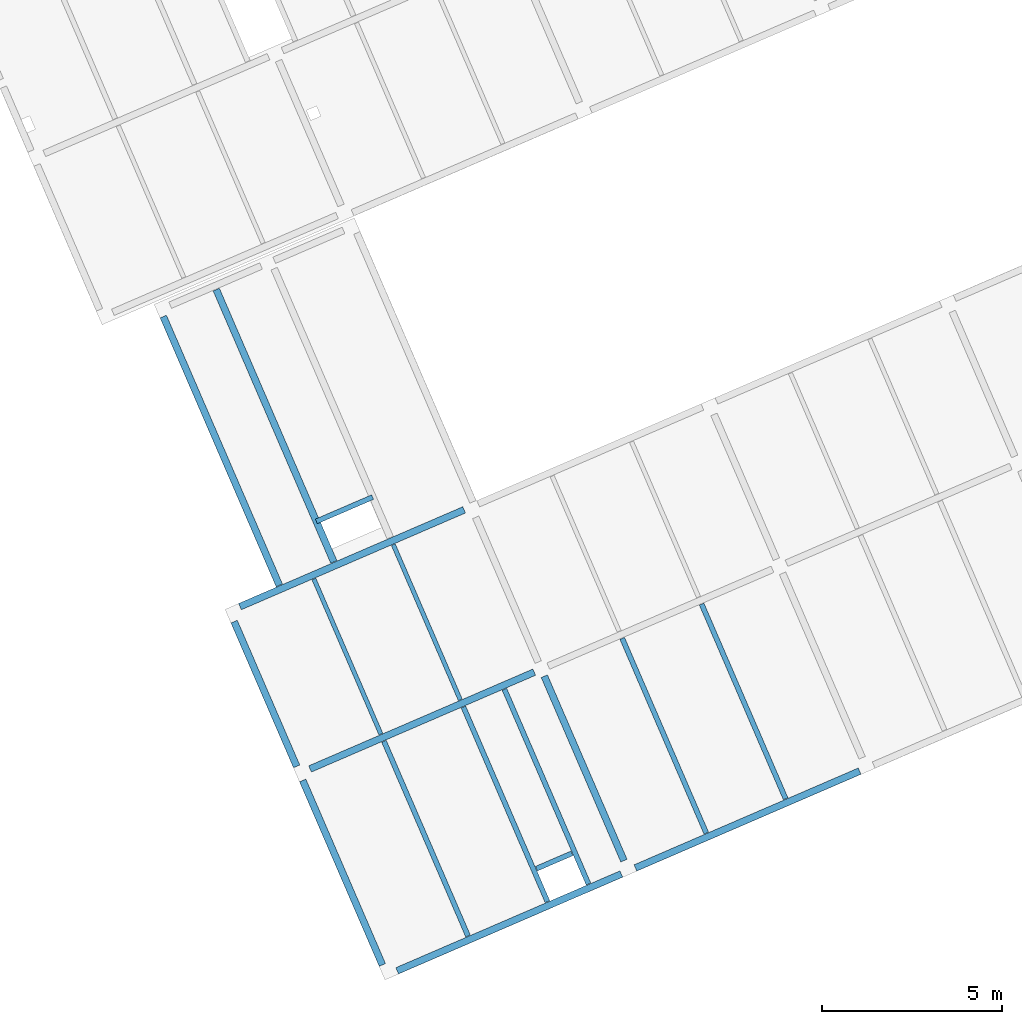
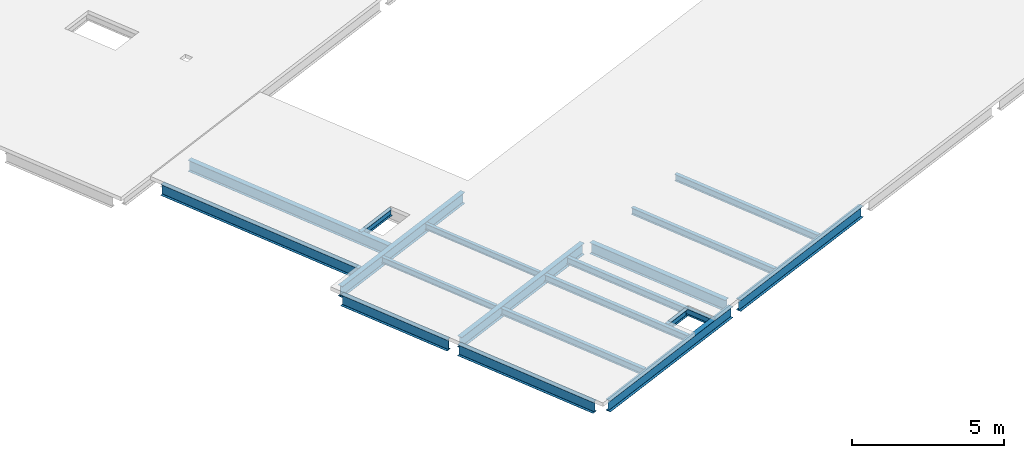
# One storey, part 1 of 15: 18 beams.
"""IFC4 building model written with IfcOpenShell, lengths in metres."""

from ifc_helpers import new_model, entity, si_unit, converted_unit, derived_unit, direction, frame, origin, place, context, subcontext, project, spatial, line, arc, indexed_curve, outline, extrude, source, transform, mapped, material, type_object, type_shapes, element, save


model = new_model("IFC4")

# Units and contexts
model_context = context("Model", 3, precision=1e-05, world=origin(), true_north=direction((6.12323399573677e-17, 1.0)))
body_context = subcontext(model_context, "Body", "Model", "MODEL_VIEW")
ifc_project = project(units=[si_unit("LENGTHUNIT", "METRE"), si_unit("AREAUNIT", "SQUARE_METRE"), si_unit("VOLUMEUNIT", "CUBIC_METRE"), converted_unit("PLANEANGLEUNIT", "DEGREE", entity("IfcPlaneAngleMeasure", 0.0174532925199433), si_unit("PLANEANGLEUNIT", "RADIAN"), dimensions=[0, 0, 0, 0, 0, 0, 0]), si_unit("MASSUNIT", "GRAM", prefix="KILO"), derived_unit("MOMENTOFINERTIAUNIT", [(si_unit("LENGTHUNIT", "METRE"), 4)]), derived_unit("LINEARFORCEUNIT", [(si_unit("MASSUNIT", "GRAM", prefix="KILO"), 1), (si_unit("TIMEUNIT", "SECOND"), -2)]), derived_unit("WARPINGCONSTANTUNIT", [(si_unit("LENGTHUNIT", "METRE"), 6)]), derived_unit("THERMALTRANSMITTANCEUNIT", [(si_unit("MASSUNIT", "GRAM", prefix="KILO"), 1), (si_unit("THERMODYNAMICTEMPERATUREUNIT", "KELVIN"), -1), (si_unit("TIMEUNIT", "SECOND"), -3)]), derived_unit("USERDEFINED", [(si_unit("MASSUNIT", "GRAM", prefix="KILO"), 1), (si_unit("TIMEUNIT", "SECOND"), -2), (si_unit("THERMODYNAMICTEMPERATUREUNIT", "KELVIN"), -1)]), derived_unit("THERMALRESISTANCEUNIT", [(si_unit("MASSUNIT", "GRAM", prefix="KILO"), -1), (si_unit("TIMEUNIT", "SECOND"), 3), (si_unit("THERMODYNAMICTEMPERATUREUNIT", "KELVIN"), 1)])], contexts=[model_context])

# Site, building, storey
site_placement = place(None, origin())
site = spatial("IfcSite", under=ifc_project, at=site_placement, Name="Default", CompositionType="ELEMENT")
building_placement = place(site_placement, frame((12.6613425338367, -82.5732315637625, 317.15), z_axis=(0.0, 0.0, 1.0), x_axis=(-0.396377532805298, 0.918087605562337, 0.0)))
building = spatial("IfcBuilding", under=site, at=building_placement, Name="CESFAM Coyhaique", CompositionType="ELEMENT")
storey_placement = place(building_placement, frame((0.0, 0.0, 8.45000000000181)))
storey = spatial("IfcBuildingStorey", under=building, at=storey_placement, Name="Nivel 3", CompositionType="ELEMENT", Elevation=8.45000000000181)

# Beams
ifc_material = material(Name="Steel, 45-345", Category="Metal")
beam_type_1 = type_object("IfcBeamType", Name="M_W Shapes:W450X190mm", PredefinedType="BEAM", material=ifc_material)
shared_shape_1 = source(origin(), body_context, "Body", "SweptSolid", [
    extrude(outline(indexed_curve([(-0.224999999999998, -0.0950000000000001), (-0.215349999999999, -0.0950000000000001), (-0.215349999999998, -0.0105699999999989), (-0.213109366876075, -0.00516063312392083), (-0.207699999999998, -0.00291999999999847), (0.207700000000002, -0.00291999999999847), (0.213109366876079, -0.00516063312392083), (0.215350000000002, -0.0105699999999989), (0.215350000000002, -0.0950000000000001), (0.225000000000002, -0.0950000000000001), (0.225000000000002, 0.0950000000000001), (0.215350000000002, 0.0950000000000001), (0.215350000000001, 0.0105700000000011), (0.213109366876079, 0.00516063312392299), (0.207700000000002, 0.00292000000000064), (-0.207699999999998, 0.00292000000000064), (-0.213109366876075, 0.00516063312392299), (-0.215349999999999, 0.0105700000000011), (-0.215349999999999, 0.0950000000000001), (-0.224999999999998, 0.0950000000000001)], segments=[line(1, 2, 3), arc(3, 4, 5), line(5, 6), arc(6, 7, 8), line(8, 9, 10, 11, 12, 13), arc(13, 14, 15), line(15, 16), arc(16, 17, 18), line(18, 19, 20, 1)], self_intersect=False)), frame((4.38155341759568, 10.0028504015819, 8.07500000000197), z_axis=(1.0, 0.0, 0.0), x_axis=(0.0, 0.0, -1.0)), (0.0, 0.0, 1.0), 5.5746),
])
type_shapes(beam_type_1, [shared_shape_1])
beam_1_placement = place(storey_placement, frame((0.0, 0.0, -8.45000000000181)))
element("IfcBeam", 1, at=beam_1_placement, inside=storey, type_object=beam_type_1, Name="M_W Shapes:W450X190mm", ObjectType="M_W Shapes:W450X190mm", PredefinedType="BEAM", context=body_context, shape_type="MappedRepresentation", body=[
    mapped(shared_shape_1, transform((0.0, 0.0, 0.0), scale=1.0)),
])
beam_type_2 = type_object("IfcBeamType", Name="M_W Shapes:W450X190mm", PredefinedType="BEAM", material=ifc_material)
shared_shape_2 = source(origin(), body_context, "Body", "SweptSolid", [
    extrude(outline(indexed_curve([(-0.0950000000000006, -0.225000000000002), (0.0950000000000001, -0.225000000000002), (0.0950000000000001, -0.215350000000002), (0.01057, -0.215350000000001), (0.00516063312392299, -0.213109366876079), (0.00291999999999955, -0.207700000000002), (0.00291999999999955, 0.207699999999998), (0.00516063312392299, 0.213109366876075), (0.01057, 0.215349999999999), (0.094999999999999, 0.215349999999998), (0.0949999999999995, 0.224999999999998), (-0.0950000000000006, 0.224999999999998), (-0.0950000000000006, 0.215349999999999), (-0.0105700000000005, 0.215349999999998), (-0.00516063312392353, 0.213109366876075), (-0.00292000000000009, 0.207699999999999), (-0.00292000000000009, -0.207700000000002), (-0.00516063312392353, -0.213109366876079), (-0.0105700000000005, -0.215350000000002), (-0.0950000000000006, -0.215350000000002)], segments=[line(1, 2, 3, 4), arc(4, 5, 6), line(6, 7), arc(7, 8, 9), line(9, 10, 11, 12, 13, 14), arc(14, 15, 16), line(16, 17), arc(17, 18, 19), line(19, 20, 1)], self_intersect=False)), frame((4.06885341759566, 3.0155504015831, 8.07500000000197), z_axis=(0.0, 1.0, 0.0), x_axis=(-1.0, 0.0, 0.0)), (0.0, 0.0, 1.0), 6.7746),
])
type_shapes(beam_type_2, [shared_shape_2])
beam_2_placement = place(storey_placement, frame((0.0, 0.0, -8.45000000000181)))
element("IfcBeam", 2, at=beam_2_placement, inside=storey, type_object=beam_type_2, Name="M_W Shapes:W450X190mm", ObjectType="M_W Shapes:W450X190mm", PredefinedType="BEAM", context=body_context, shape_type="MappedRepresentation", body=[
    mapped(shared_shape_2, transform((0.0, 0.0, 0.0), scale=1.0)),
])
beam_type_3 = type_object("IfcBeamType", Name="M_W Shapes:W450X190mm", PredefinedType="BEAM", material=ifc_material)
shared_shape_3 = source(origin(), body_context, "Body", "SweptSolid", [
    extrude(outline(indexed_curve([(-0.224999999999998, -0.0950000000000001), (-0.215349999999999, -0.0950000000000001), (-0.215349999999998, -0.0105699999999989), (-0.213109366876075, -0.00516063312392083), (-0.207699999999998, -0.00291999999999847), (0.207700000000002, -0.00291999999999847), (0.213109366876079, -0.00516063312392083), (0.215350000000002, -0.0105699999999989), (0.215350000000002, -0.0950000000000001), (0.225000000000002, -0.0950000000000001), (0.225000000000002, 0.0950000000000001), (0.215350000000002, 0.0950000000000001), (0.215350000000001, 0.0105700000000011), (0.213109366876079, 0.00516063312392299), (0.207700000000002, 0.00292000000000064), (-0.207699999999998, 0.00292000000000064), (-0.213109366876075, 0.00516063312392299), (-0.215349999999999, 0.0105700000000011), (-0.215349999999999, 0.0950000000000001), (-0.224999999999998, 0.0950000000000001)], segments=[line(1, 2, 3), arc(3, 4, 5), line(5, 6), arc(6, 7, 8), line(8, 9, 10, 11, 12, 13), arc(13, 14, 15), line(15, 16), arc(16, 17, 18), line(18, 19, 20, 1)], self_intersect=False)), frame((4.3815534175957, 17.3028504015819, 8.07500000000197), z_axis=(1.0, 0.0, 0.0), x_axis=(0.0, 0.0, -1.0)), (0.0, 0.0, 1.0), 5.5746),
])
type_shapes(beam_type_3, [shared_shape_3])
beam_3_placement = place(storey_placement, frame((0.0, 0.0, -8.45000000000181)))
element("IfcBeam", 3, at=beam_3_placement, inside=storey, type_object=beam_type_3, Name="M_W Shapes:W450X190mm", ObjectType="M_W Shapes:W450X190mm", PredefinedType="BEAM", context=body_context, shape_type="MappedRepresentation", body=[
    mapped(shared_shape_3, transform((0.0, 0.0, 0.0), scale=1.0)),
])
beam_type_4 = type_object("IfcBeamType", Name="M_W Shapes:W450X190mm", PredefinedType="BEAM", material=ifc_material)
shared_shape_4 = source(origin(), body_context, "Body", "SweptSolid", [
    extrude(outline(indexed_curve([(-0.224999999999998, -0.0950000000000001), (-0.215349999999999, -0.0949999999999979), (-0.215349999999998, -0.0105699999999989), (-0.213109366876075, -0.00516063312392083), (-0.207699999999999, -0.00291999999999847), (0.207700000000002, -0.00291999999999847), (0.213109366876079, -0.00516063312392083), (0.215350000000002, -0.0105699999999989), (0.215350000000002, -0.0950000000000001), (0.225000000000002, -0.0950000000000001), (0.225000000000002, 0.0950000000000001), (0.215350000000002, 0.0950000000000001), (0.215350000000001, 0.0105700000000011), (0.213109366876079, 0.00516063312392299), (0.207700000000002, 0.00292000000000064), (-0.207699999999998, 0.00292000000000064), (-0.213109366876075, 0.00516063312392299), (-0.215349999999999, 0.0105700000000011), (-0.215349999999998, 0.0950000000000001), (-0.224999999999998, 0.0950000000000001)], segments=[line(1, 2, 3), arc(3, 4, 5), line(5, 6), arc(6, 7, 8), line(8, 9, 10, 11, 12, 13), arc(13, 14, 15), line(15, 16), arc(16, 17, 18), line(18, 19, 20, 1)], self_intersect=False)), frame((10.3815534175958, 17.3028504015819, 8.07500000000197), z_axis=(1.0, 0.0, 0.0), x_axis=(0.0, 0.0, -1.0)), (0.0, 0.0, 1.0), 4.3746),
])
type_shapes(beam_type_4, [shared_shape_4])
beam_4_placement = place(storey_placement, frame((0.0, 0.0, -8.45000000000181)))
element("IfcBeam", 4, at=beam_4_placement, inside=storey, type_object=beam_type_4, Name="M_W Shapes:W450X190mm", ObjectType="M_W Shapes:W450X190mm", PredefinedType="BEAM", context=body_context, shape_type="MappedRepresentation", body=[
    mapped(shared_shape_4, transform((0.0, 0.0, 0.0), scale=1.0)),
])
beam_type_5 = type_object("IfcBeamType", Name="M_W Shapes:W450X190mm", PredefinedType="BEAM", material=ifc_material)
shared_shape_5 = source(origin(), body_context, "Body", "SweptSolid", [
    extrude(outline(indexed_curve([(-0.224999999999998, -0.0950000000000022), (-0.215349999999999, -0.0950000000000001), (-0.215349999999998, -0.0105700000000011), (-0.213109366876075, -0.00516063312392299), (-0.207699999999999, -0.00292000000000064), (0.207700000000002, -0.00292000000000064), (0.213109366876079, -0.00516063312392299), (0.215350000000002, -0.0105700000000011), (0.215350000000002, -0.0950000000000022), (0.225000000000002, -0.0950000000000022), (0.225000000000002, 0.0949999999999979), (0.215350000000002, 0.0949999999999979), (0.215350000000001, 0.0105699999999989), (0.213109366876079, 0.00516063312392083), (0.207700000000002, 0.00291999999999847), (-0.207699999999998, 0.00291999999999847), (-0.213109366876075, 0.00516063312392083), (-0.215349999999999, 0.0105699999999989), (-0.215349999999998, 0.0949999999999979), (-0.224999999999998, 0.0949999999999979)], segments=[line(1, 2, 3), arc(3, 4, 5), line(5, 6), arc(6, 7, 8), line(8, 9, 10, 11, 12, 13), arc(13, 14, 15), line(15, 16), arc(16, 17, 18), line(18, 19, 20, 1)], self_intersect=False)), frame((15.1815534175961, 15.7528504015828, 8.07500000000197), z_axis=(1.0, 0.0, 0.0), x_axis=(0.0, 0.0, -1.0)), (0.0, 0.0, 1.0), 8.1246),
])
type_shapes(beam_type_5, [shared_shape_5])
beam_5_placement = place(storey_placement, frame((0.0, 0.0, -8.45000000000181)))
element("IfcBeam", 5, at=beam_5_placement, inside=storey, type_object=beam_type_5, Name="M_W Shapes:W450X190mm", ObjectType="M_W Shapes:W450X190mm", PredefinedType="BEAM", context=body_context, shape_type="MappedRepresentation", body=[
    mapped(shared_shape_5, transform((0.0, 0.0, 0.0), scale=1.0)),
])
beam_type_6 = type_object("IfcBeamType", Name="M_W Shapes:W450X190mm", PredefinedType="BEAM", material=ifc_material)
shared_shape_6 = source(origin(), body_context, "Body", "SweptSolid", [
    extrude(outline(indexed_curve([(-0.0950000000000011, -0.225000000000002), (0.0949999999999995, -0.225000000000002), (0.0949999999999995, -0.215350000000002), (0.0105699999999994, -0.215350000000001), (0.00516063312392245, -0.213109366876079), (0.00291999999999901, -0.207700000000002), (0.00291999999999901, 0.207699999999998), (0.00516063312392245, 0.213109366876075), (0.0105699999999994, 0.215349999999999), (0.0949999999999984, 0.215349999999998), (0.094999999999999, 0.224999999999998), (-0.0950000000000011, 0.224999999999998), (-0.0950000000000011, 0.215349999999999), (-0.0105700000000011, 0.215349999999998), (-0.00516063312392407, 0.213109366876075), (-0.00292000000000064, 0.207699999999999), (-0.00292000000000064, -0.207700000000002), (-0.00516063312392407, -0.213109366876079), (-0.0105700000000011, -0.215350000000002), (-0.0950000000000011, -0.215350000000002)], segments=[line(1, 2, 3, 4), arc(4, 5, 6), line(6, 7), arc(7, 8, 9), line(9, 10, 11, 12, 13, 14), arc(14, 15, 16), line(16, 17), arc(17, 18, 19), line(19, 20, 1)], self_intersect=False)), frame((4.06885341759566, 10.2155504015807, 8.07500000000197), z_axis=(0.0, 1.0, 0.0), x_axis=(-1.0, 0.0, 0.0)), (0.0, 0.0, 1.0), 6.7746),
])
type_shapes(beam_type_6, [shared_shape_6])
beam_6_placement = place(storey_placement, frame((0.0, 0.0, -8.45000000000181)))
element("IfcBeam", 6, at=beam_6_placement, inside=storey, type_object=beam_type_6, Name="M_W Shapes:W450X190mm", ObjectType="M_W Shapes:W450X190mm", PredefinedType="BEAM", context=body_context, shape_type="MappedRepresentation", body=[
    mapped(shared_shape_6, transform((0.0, 0.0, 0.0), scale=1.0)),
])
beam_type_7 = type_object("IfcBeamType", Name="M_W Shapes:W450X190mm", PredefinedType="BEAM", material=ifc_material)
shared_shape_7 = source(origin(), body_context, "Body", "SweptSolid", [
    extrude(outline(indexed_curve([(-0.0950000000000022, -0.225000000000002), (0.0949999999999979, -0.225000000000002), (0.0949999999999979, -0.215350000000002), (0.0105699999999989, -0.215350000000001), (0.00516063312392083, -0.213109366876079), (0.00291999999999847, -0.207700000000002), (0.00291999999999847, 0.207699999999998), (0.00516063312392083, 0.213109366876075), (0.0105699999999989, 0.215349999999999), (0.0949999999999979, 0.215349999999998), (0.0949999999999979, 0.224999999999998), (-0.0950000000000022, 0.224999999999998), (-0.0950000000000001, 0.215349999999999), (-0.0105700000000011, 0.215349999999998), (-0.00516063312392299, 0.213109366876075), (-0.00292000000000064, 0.207699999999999), (-0.00292000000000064, -0.207700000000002), (-0.00516063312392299, -0.213109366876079), (-0.0105700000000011, -0.215350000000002), (-0.0950000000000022, -0.215350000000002)], segments=[line(1, 2, 3, 4), arc(4, 5, 6), line(6, 7), arc(7, 8, 9), line(9, 10, 11, 12, 13, 14), arc(14, 15, 16), line(16, 17), arc(17, 18, 19), line(19, 20, 1)], self_intersect=False)), frame((10.1688534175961, 10.2155504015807, 8.07500000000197), z_axis=(0.0, 1.0, 0.0), x_axis=(-1.0, 0.0, 0.0)), (0.0, 0.0, 1.0), 6.7746),
])
type_shapes(beam_type_7, [shared_shape_7])
beam_7_placement = place(storey_placement, frame((0.0, 0.0, -8.45000000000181)))
element("IfcBeam", 7, at=beam_7_placement, inside=storey, type_object=beam_type_7, Name="M_W Shapes:W450X190mm", ObjectType="M_W Shapes:W450X190mm", PredefinedType="BEAM", context=body_context, shape_type="MappedRepresentation", body=[
    mapped(shared_shape_7, transform((0.0, 0.0, 0.0), scale=1.0)),
])
beam_type_8 = type_object("IfcBeamType", Name="M_W Shapes:W450X190mm", PredefinedType="BEAM", material=ifc_material)
shared_shape_8 = source(origin(), body_context, "Body", "SweptSolid", [
    extrude(outline(indexed_curve([(-0.0950000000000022, -0.225000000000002), (0.0949999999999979, -0.225000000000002), (0.0949999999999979, -0.215350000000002), (0.0105699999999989, -0.215350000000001), (0.00516063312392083, -0.213109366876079), (0.00291999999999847, -0.207700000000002), (0.00291999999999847, 0.207699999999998), (0.00516063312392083, 0.213109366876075), (0.0105699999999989, 0.215349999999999), (0.0949999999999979, 0.215349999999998), (0.0949999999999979, 0.224999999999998), (-0.0950000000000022, 0.224999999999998), (-0.0950000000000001, 0.215349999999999), (-0.0105700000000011, 0.215349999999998), (-0.00516063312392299, 0.213109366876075), (-0.00292000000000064, 0.207699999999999), (-0.00292000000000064, -0.207700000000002), (-0.00516063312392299, -0.213109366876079), (-0.0105700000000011, -0.215350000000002), (-0.0950000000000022, -0.215350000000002)], segments=[line(1, 2, 3, 4), arc(4, 5, 6), line(6, 7), arc(7, 8, 9), line(9, 10, 11, 12, 13, 14), arc(14, 15, 16), line(16, 17), arc(17, 18, 19), line(19, 20, 1)], self_intersect=False)), frame((15.0738534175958, 10.2155504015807, 8.07500000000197), z_axis=(0.0, 1.0, 0.0), x_axis=(-1.0, 0.0, 0.0)), (0.0, 0.0, 1.0), 6.7746),
])
type_shapes(beam_type_8, [shared_shape_8])
beam_8_placement = place(storey_placement, frame((0.0, 0.0, -8.45000000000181)))
element("IfcBeam", 8, at=beam_8_placement, inside=storey, type_object=beam_type_8, Name="M_W Shapes:W450X190mm", ObjectType="M_W Shapes:W450X190mm", PredefinedType="BEAM", context=body_context, shape_type="MappedRepresentation", body=[
    mapped(shared_shape_8, transform((0.0, 0.0, 0.0), scale=1.0)),
])
beam_type_9 = type_object("IfcBeamType", Name="M_W Shapes:W270X140mm", PredefinedType="BEAM", material=ifc_material)
shared_shape_9 = source(origin(), body_context, "Body", "SweptSolid", [
    extrude(outline(indexed_curve([(-0.135, -0.0700000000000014), (-0.125350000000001, -0.0700000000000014), (-0.12535, -0.0105700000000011), (-0.123109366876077, -0.00516063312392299), (-0.1177, -0.00292000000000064), (0.117699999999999, -0.00292000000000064), (0.123109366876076, -0.00516063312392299), (0.12535, -0.0105700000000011), (0.12535, -0.0700000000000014), (0.135, -0.0700000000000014), (0.135, 0.0699999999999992), (0.12535, 0.0699999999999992), (0.125349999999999, 0.0105699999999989), (0.123109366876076, 0.00516063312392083), (0.117699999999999, 0.00291999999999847), (-0.1177, 0.00291999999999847), (-0.123109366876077, 0.00516063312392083), (-0.125350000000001, 0.0105699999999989), (-0.125350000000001, 0.0699999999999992), (-0.135, 0.0699999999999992)], segments=[line(1, 2, 3), arc(3, 4, 5), line(5, 6), arc(6, 7, 8), line(8, 9, 10, 11, 12, 13), arc(13, 14, 15), line(15, 16), arc(16, 17, 18), line(18, 19, 20, 1)], self_intersect=False)), frame((4.17655341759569, 11.1628504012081, 8.16500000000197), z_axis=(1.0, 0.0, 0.0), x_axis=(0.0, 0.0, -1.0)), (0.0, 0.0, 1.0), 5.8846),
])
type_shapes(beam_type_9, [shared_shape_9])
beam_9_placement = place(storey_placement, frame((0.0, 0.0, -8.45000000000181)))
element("IfcBeam", 9, at=beam_9_placement, inside=storey, type_object=beam_type_9, Name="M_W Shapes:W270X140mm", ObjectType="M_W Shapes:W270X140mm", PredefinedType="BEAM", context=body_context, shape_type="MappedRepresentation", body=[
    mapped(shared_shape_9, transform((0.0, 0.0, 0.0), scale=1.0)),
])
beam_type_10 = type_object("IfcBeamType", Name="M_W Shapes:W270X140mm", PredefinedType="BEAM", material=ifc_material)
shared_shape_10 = source(origin(), body_context, "Body", "SweptSolid", [
    extrude(outline(indexed_curve([(-0.135, -0.0699999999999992), (-0.125350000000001, -0.0699999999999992), (-0.12535, -0.0105699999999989), (-0.123109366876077, -0.00516063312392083), (-0.1177, -0.00291999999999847), (0.117699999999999, -0.00291999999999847), (0.123109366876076, -0.00516063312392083), (0.12535, -0.0105699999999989), (0.12535, -0.0699999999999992), (0.135, -0.0699999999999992), (0.135, 0.0700000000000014), (0.12535, 0.0700000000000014), (0.125349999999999, 0.0105700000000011), (0.123109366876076, 0.00516063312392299), (0.117699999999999, 0.00292000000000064), (-0.1177, 0.00292000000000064), (-0.123109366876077, 0.00516063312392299), (-0.125350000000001, 0.0105700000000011), (-0.125350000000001, 0.0700000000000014), (-0.135, 0.0700000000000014)], segments=[line(1, 2, 3), arc(3, 4, 5), line(5, 6), arc(6, 7, 8), line(8, 9, 10, 11, 12, 13), arc(13, 14, 15), line(15, 16), arc(16, 17, 18), line(18, 19, 20, 1)], self_intersect=False)), frame((4.17655341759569, 12.402850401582, 8.16500000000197), z_axis=(1.0, 0.0, 0.0), x_axis=(0.0, 0.0, -1.0)), (0.0, 0.0, 1.0), 5.8846),
])
type_shapes(beam_type_10, [shared_shape_10])
beam_10_placement = place(storey_placement, frame((0.0, 0.0, -8.45000000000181)))
element("IfcBeam", 10, at=beam_10_placement, inside=storey, type_object=beam_type_10, Name="M_W Shapes:W270X140mm", ObjectType="M_W Shapes:W270X140mm", PredefinedType="BEAM", context=body_context, shape_type="MappedRepresentation", body=[
    mapped(shared_shape_10, transform((0.0, 0.0, 0.0), scale=1.0)),
])
beam_type_11 = type_object("IfcBeamType", Name="M_W Shapes:W270X140mm", PredefinedType="BEAM", material=ifc_material)
shared_shape_11 = source(origin(), body_context, "Body", "SweptSolid", [
    extrude(outline(indexed_curve([(-0.0700000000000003, -0.135), (0.0700000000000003, -0.135), (0.0700000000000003, -0.12535), (0.01057, -0.12535), (0.00516063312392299, -0.123109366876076), (0.00291999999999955, -0.117699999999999), (0.00291999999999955, 0.1177), (0.00516063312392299, 0.123109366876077), (0.01057, 0.125350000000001), (0.0699999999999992, 0.125350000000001), (0.0699999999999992, 0.135), (-0.0700000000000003, 0.135), (-0.0700000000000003, 0.125350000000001), (-0.01057, 0.125350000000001), (-0.00516063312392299, 0.123109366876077), (-0.00292000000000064, 0.1177), (-0.00291999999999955, -0.117699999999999), (-0.00516063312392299, -0.123109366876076), (-0.01057, -0.12535), (-0.0700000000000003, -0.12535)], segments=[line(1, 2, 3, 4), arc(4, 5, 6), line(6, 7), arc(7, 8, 9), line(9, 10, 11, 12, 13, 14), arc(14, 15, 16), line(16, 17), arc(17, 18, 19), line(19, 20, 1)], self_intersect=False)), frame((5.1388534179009, 11.245550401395, 8.16500000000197), z_axis=(0.0, 1.0, 0.0), x_axis=(-1.0, 0.0, 0.0)), (0.0, 0.0, 1.0), 1.0746),
])
type_shapes(beam_type_11, [shared_shape_11])
beam_11_placement = place(storey_placement, frame((0.0, 0.0, -8.45000000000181)))
element("IfcBeam", 11, at=beam_11_placement, inside=storey, type_object=beam_type_11, Name="M_W Shapes:W270X140mm", ObjectType="M_W Shapes:W270X140mm", PredefinedType="BEAM", context=body_context, shape_type="MappedRepresentation", body=[
    mapped(shared_shape_11, transform((0.0, 0.0, 0.0), scale=1.0)),
])
beam_type_12 = type_object("IfcBeamType", Name="M_W Shapes:W270X140mm", PredefinedType="BEAM", material=ifc_material)
shared_shape_12 = source(origin(), body_context, "Body", "SweptSolid", [
    extrude(outline(indexed_curve([(-0.135, -0.0699999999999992), (-0.125350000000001, -0.0699999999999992), (-0.12535, -0.0105699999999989), (-0.123109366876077, -0.00516063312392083), (-0.1177, -0.00291999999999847), (0.117699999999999, -0.00291999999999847), (0.123109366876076, -0.00516063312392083), (0.12535, -0.0105699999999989), (0.12535, -0.0699999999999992), (0.135, -0.0699999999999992), (0.135, 0.0700000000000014), (0.12535, 0.0700000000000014), (0.125349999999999, 0.0105700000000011), (0.123109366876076, 0.00516063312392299), (0.117699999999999, 0.00292000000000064), (-0.1177, 0.00292000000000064), (-0.123109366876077, 0.00516063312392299), (-0.125350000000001, 0.0105700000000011), (-0.125350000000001, 0.0700000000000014), (-0.135, 0.0700000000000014)], segments=[line(1, 2, 3), arc(3, 4, 5), line(5, 6), arc(6, 7, 8), line(8, 9, 10, 11, 12, 13), arc(13, 14, 15), line(15, 16), arc(16, 17, 18), line(18, 19, 20, 1)], self_intersect=False)), frame((4.1765534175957, 14.802850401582, 8.16500000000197), z_axis=(1.0, 0.0, 0.0), x_axis=(0.0, 0.0, -1.0)), (0.0, 0.0, 1.0), 5.8846),
])
type_shapes(beam_type_12, [shared_shape_12])
beam_12_placement = place(storey_placement, frame((0.0, 0.0, -8.45000000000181)))
element("IfcBeam", 12, at=beam_12_placement, inside=storey, type_object=beam_type_12, Name="M_W Shapes:W270X140mm", ObjectType="M_W Shapes:W270X140mm", PredefinedType="BEAM", context=body_context, shape_type="MappedRepresentation", body=[
    mapped(shared_shape_12, transform((0.0, 0.0, 0.0), scale=1.0)),
])
beam_type_13 = type_object("IfcBeamType", Name="M_W Shapes:W240X120mm", PredefinedType="BEAM", material=ifc_material)
shared_shape_13 = source(origin(), body_context, "Body", "SweptSolid", [
    extrude(outline(indexed_curve([(-0.119999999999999, -0.059999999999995), (-0.11035, -0.059999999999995), (-0.110349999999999, -0.0105699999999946), (-0.108109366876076, -0.00516063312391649), (-0.102699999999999, -0.00291999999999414), (0.1027, -0.00291999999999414), (0.108109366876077, -0.00516063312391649), (0.11035, -0.0105699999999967), (0.110350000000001, -0.059999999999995), (0.120000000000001, -0.059999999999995), (0.120000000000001, 0.0600000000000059), (0.11035, 0.0600000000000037), (0.11035, 0.0105700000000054), (0.108109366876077, 0.00516063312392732), (0.102699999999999, 0.00292000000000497), (-0.102699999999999, 0.00292000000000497), (-0.108109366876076, 0.00516063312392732), (-0.11035, 0.0105700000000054), (-0.110349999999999, 0.0600000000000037), (-0.119999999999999, 0.0600000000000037)], segments=[line(1, 2, 3), arc(3, 4, 5), line(5, 6), arc(6, 7, 8), line(8, 9, 10, 11, 12, 13), arc(13, 14, 15), line(15, 16), arc(16, 17, 18), line(18, 19, 20, 1)], self_intersect=False)), frame((10.276553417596, 14.802850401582, 8.18000000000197), z_axis=(1.0, 0.0, 0.0), x_axis=(0.0, 0.0, -1.0)), (0.0, 0.0, 1.0), 4.6896),
])
type_shapes(beam_type_13, [shared_shape_13])
beam_13_placement = place(storey_placement, frame((0.0, 0.0, -8.45000000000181)))
element("IfcBeam", 13, at=beam_13_placement, inside=storey, type_object=beam_type_13, Name="M_W Shapes:W240X120mm", ObjectType="M_W Shapes:W240X120mm", PredefinedType="BEAM", context=body_context, shape_type="MappedRepresentation", body=[
    mapped(shared_shape_13, transform((0.0, 0.0, 0.0), scale=1.0)),
])
beam_type_14 = type_object("IfcBeamType", Name="M_W Shapes:W240X120mm", PredefinedType="BEAM", material=ifc_material)
shared_shape_14 = source(origin(), body_context, "Body", "SweptSolid", [
    extrude(outline(indexed_curve([(-0.119999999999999, -0.0599999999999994), (-0.11035, -0.0599999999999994), (-0.110349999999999, -0.0105699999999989), (-0.108109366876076, -0.00516063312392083), (-0.102699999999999, -0.00291999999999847), (0.1027, -0.00291999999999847), (0.108109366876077, -0.00516063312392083), (0.11035, -0.0105700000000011), (0.110350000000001, -0.0599999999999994), (0.120000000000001, -0.0599999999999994), (0.120000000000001, 0.0600000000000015), (0.11035, 0.0599999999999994), (0.11035, 0.0105700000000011), (0.108109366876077, 0.00516063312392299), (0.102699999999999, 0.00292000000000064), (-0.102699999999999, 0.00292000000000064), (-0.108109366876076, 0.00516063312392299), (-0.11035, 0.0105700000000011), (-0.110349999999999, 0.0599999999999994), (-0.119999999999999, 0.0599999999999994)], segments=[line(1, 2, 3), arc(3, 4, 5), line(5, 6), arc(6, 7, 8), line(8, 9, 10, 11, 12, 13), arc(13, 14, 15), line(15, 16), arc(16, 17, 18), line(18, 19, 20, 1)], self_intersect=False)), frame((10.276553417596, 12.402850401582, 8.18000000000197), z_axis=(1.0, 0.0, 0.0), x_axis=(0.0, 0.0, -1.0)), (0.0, 0.0, 1.0), 4.6896),
])
type_shapes(beam_type_14, [shared_shape_14])
beam_14_placement = place(storey_placement, frame((0.0, 0.0, -8.45000000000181)))
element("IfcBeam", 14, at=beam_14_placement, inside=storey, type_object=beam_type_14, Name="M_W Shapes:W240X120mm", ObjectType="M_W Shapes:W240X120mm", PredefinedType="BEAM", context=body_context, shape_type="MappedRepresentation", body=[
    mapped(shared_shape_14, transform((0.0, 0.0, 0.0), scale=1.0)),
])
beam_type_15 = type_object("IfcBeamType", Name="M_W Shapes:W270X140mm", PredefinedType="BEAM", material=ifc_material)
shared_shape_15 = source(origin(), body_context, "Body", "SweptSolid", [
    extrude(outline(indexed_curve([(-0.135, -0.0700000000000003), (-0.125350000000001, -0.0700000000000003), (-0.125350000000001, -0.01057), (-0.123109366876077, -0.00516063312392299), (-0.1177, -0.00292000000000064), (0.117699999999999, -0.00291999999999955), (0.123109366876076, -0.00516063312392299), (0.12535, -0.01057), (0.12535, -0.0700000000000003), (0.135, -0.0700000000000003), (0.135, 0.0700000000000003), (0.12535, 0.0700000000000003), (0.12535, 0.01057), (0.123109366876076, 0.00516063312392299), (0.117699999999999, 0.00291999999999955), (-0.1177, 0.00291999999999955), (-0.123109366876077, 0.00516063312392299), (-0.125350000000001, 0.01057), (-0.125350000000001, 0.0699999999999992), (-0.135, 0.0699999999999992)], segments=[line(1, 2, 3), arc(3, 4, 5), line(5, 6), arc(6, 7, 8), line(8, 9, 10, 11, 12, 13), arc(13, 14, 15), line(15, 16), arc(16, 17, 18), line(18, 19, 20, 1)], self_intersect=False)), frame((4.17655341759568, 7.60285040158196, 8.16500000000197), z_axis=(1.0, 0.0, 0.0), x_axis=(0.0, 0.0, -1.0)), (0.0, 0.0, 1.0), 5.8846),
])
type_shapes(beam_type_15, [shared_shape_15])
beam_15_placement = place(storey_placement, frame((0.0, 0.0, -8.45000000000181)))
element("IfcBeam", 15, at=beam_15_placement, inside=storey, type_object=beam_type_15, Name="M_W Shapes:W270X140mm", ObjectType="M_W Shapes:W270X140mm", PredefinedType="BEAM", context=body_context, shape_type="MappedRepresentation", body=[
    mapped(shared_shape_15, transform((0.0, 0.0, 0.0), scale=1.0)),
])
beam_type_16 = type_object("IfcBeamType", Name="M_W Shapes:W270X140mm", PredefinedType="BEAM", material=ifc_material)
shared_shape_16 = source(origin(), body_context, "Body", "SweptSolid", [
    extrude(outline(indexed_curve([(-0.135, -0.0700000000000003), (-0.125350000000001, -0.0700000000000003), (-0.125350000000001, -0.01057), (-0.123109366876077, -0.00516063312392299), (-0.1177, -0.00292000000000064), (0.117699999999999, -0.00291999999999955), (0.123109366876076, -0.00516063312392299), (0.12535, -0.01057), (0.12535, -0.0700000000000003), (0.135, -0.0700000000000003), (0.135, 0.0700000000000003), (0.12535, 0.0700000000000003), (0.12535, 0.01057), (0.123109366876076, 0.00516063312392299), (0.117699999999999, 0.00291999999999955), (-0.1177, 0.00291999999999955), (-0.123109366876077, 0.00516063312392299), (-0.125350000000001, 0.01057), (-0.125350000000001, 0.0699999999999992), (-0.135, 0.0699999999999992)], segments=[line(1, 2, 3), arc(3, 4, 5), line(5, 6), arc(6, 7, 8), line(8, 9, 10, 11, 12, 13), arc(13, 14, 15), line(15, 16), arc(16, 17, 18), line(18, 19, 20, 1)], self_intersect=False)), frame((4.17655341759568, 5.20285040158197, 8.16500000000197), z_axis=(1.0, 0.0, 0.0), x_axis=(0.0, 0.0, -1.0)), (0.0, 0.0, 1.0), 5.8846),
])
type_shapes(beam_type_16, [shared_shape_16])
beam_16_placement = place(storey_placement, frame((0.0, 0.0, -8.45000000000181)))
element("IfcBeam", 16, at=beam_16_placement, inside=storey, type_object=beam_type_16, Name="M_W Shapes:W270X140mm", ObjectType="M_W Shapes:W270X140mm", PredefinedType="BEAM", context=body_context, shape_type="MappedRepresentation", body=[
    mapped(shared_shape_16, transform((0.0, 0.0, 0.0), scale=1.0)),
])
beam_type_17 = type_object("IfcBeamType", Name="M_W Shapes:W450X190mm", PredefinedType="BEAM", material=ifc_material)
shared_shape_17 = source(origin(), body_context, "Body", "SweptSolid", [
    extrude(outline(indexed_curve([(-0.224999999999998, -0.0950000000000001), (-0.215349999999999, -0.0949999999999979), (-0.215349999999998, -0.0105699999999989), (-0.213109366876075, -0.00516063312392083), (-0.207699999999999, -0.00291999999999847), (0.207700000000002, -0.00291999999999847), (0.213109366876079, -0.00516063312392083), (0.215350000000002, -0.0105699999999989), (0.215350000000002, -0.0950000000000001), (0.225000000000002, -0.0950000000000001), (0.225000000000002, 0.0950000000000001), (0.215350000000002, 0.0950000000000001), (0.215350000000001, 0.0105700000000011), (0.213109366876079, 0.00516063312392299), (0.207700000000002, 0.00292000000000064), (-0.207699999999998, 0.00292000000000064), (-0.213109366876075, 0.00516063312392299), (-0.215349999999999, 0.0105700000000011), (-0.215349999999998, 0.0950000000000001), (-0.224999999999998, 0.0950000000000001)], segments=[line(1, 2, 3), arc(3, 4, 5), line(5, 6), arc(6, 7, 8), line(8, 9, 10, 11, 12, 13), arc(13, 14, 15), line(15, 16), arc(16, 17, 18), line(18, 19, 20, 1)], self_intersect=False)), frame((15.1815534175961, 14.1073856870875, 8.07500000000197), z_axis=(1.0, 0.0, 0.0), x_axis=(0.0, 0.0, -1.0)), (0.0, 0.0, 1.0), 8.2296),
])
type_shapes(beam_type_17, [shared_shape_17])
beam_17_placement = place(storey_placement, frame((0.0, 0.0, -8.45000000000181)))
element("IfcBeam", 17, at=beam_17_placement, inside=storey, type_object=beam_type_17, Name="M_W Shapes:W450X190mm", ObjectType="M_W Shapes:W450X190mm", PredefinedType="BEAM", context=body_context, shape_type="MappedRepresentation", body=[
    mapped(shared_shape_17, transform((0.0, 0.0, 0.0), scale=1.0)),
])
beam_type_18 = type_object("IfcBeamType", Name="M_W Shapes:W270X140mm", PredefinedType="BEAM", material=ifc_material)
shared_shape_18 = source(origin(), body_context, "Body", "SweptSolid", [
    extrude(outline(indexed_curve([(-0.0699999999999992, -0.135000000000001), (0.0700000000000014, -0.135000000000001), (0.0700000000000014, -0.125350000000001), (0.0105700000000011, -0.12535), (0.00516063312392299, -0.123109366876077), (0.00292000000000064, -0.1177), (0.00292000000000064, 0.117699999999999), (0.00516063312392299, 0.123109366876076), (0.0105700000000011, 0.12535), (0.0700000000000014, 0.12535), (0.0699999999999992, 0.134999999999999), (-0.0699999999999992, 0.135), (-0.0699999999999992, 0.12535), (-0.0105699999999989, 0.125349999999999), (-0.00516063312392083, 0.123109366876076), (-0.00291999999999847, 0.1177), (-0.00291999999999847, -0.1177), (-0.00516063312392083, -0.123109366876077), (-0.0105699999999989, -0.125350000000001), (-0.0699999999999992, -0.125350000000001)], segments=[line(1, 2, 3, 4), arc(4, 5, 6), line(6, 7), arc(7, 8, 9), line(9, 10, 11, 12, 13, 14), arc(14, 15, 16), line(16, 17), arc(17, 18, 19), line(19, 20, 1)], self_intersect=False)), frame((16.4048401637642, 12.4078688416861, 8.16500000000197), z_axis=(0.0, 1.0, 0.0), x_axis=(-1.0, 0.0, 0.0)), (0.0, 0.0, 1.0), 1.6995),
])
type_shapes(beam_type_18, [shared_shape_18])
beam_18_placement = place(storey_placement, frame((0.0, 0.0, -8.45000000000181)))
element("IfcBeam", 18, at=beam_18_placement, inside=storey, type_object=beam_type_18, Name="M_W Shapes:W270X140mm", ObjectType="M_W Shapes:W270X140mm", PredefinedType="BEAM", context=body_context, shape_type="MappedRepresentation", body=[
    mapped(shared_shape_18, transform((0.0, 0.0, 0.0), scale=1.0)),
])

save(model, "model.ifc")
